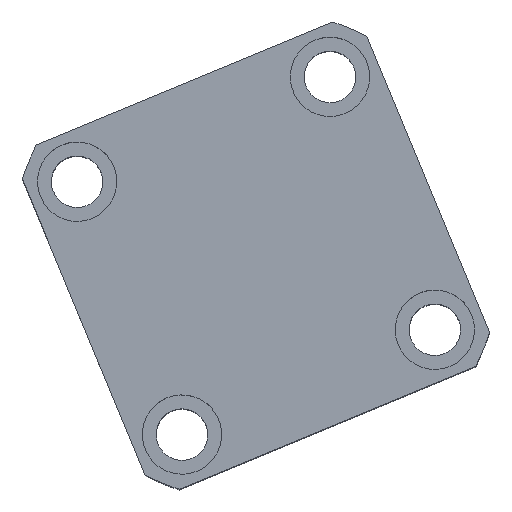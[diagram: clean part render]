
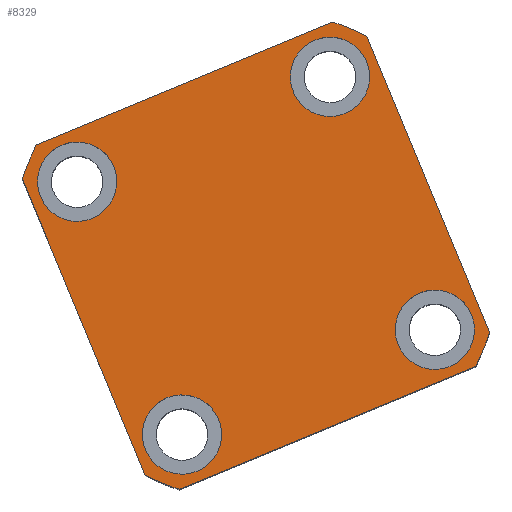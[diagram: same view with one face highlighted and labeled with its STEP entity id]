
A CAD part, top view. The second image highlights one B-rep face of the part: STEP entity #8329.
In plain terms, the highlighted planar face has unit normal (0, 0, 1) as drawn and (0, 0, -1) by its records, which use the part's own axes.
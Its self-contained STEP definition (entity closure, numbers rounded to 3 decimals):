
#53 = VERTEX_POINT ( 'NONE', #15798 ) ;
#65 = DIRECTION ( 'NONE',  ( 0., 0., -1. ) ) ;
#103 = EDGE_LOOP ( 'NONE', ( #13691, #5099 ) ) ;
#450 = CARTESIAN_POINT ( 'NONE',  ( -47., 47., 0. ) ) ;
#646 = ORIENTED_EDGE ( 'NONE', *, *, #15579, .F. ) ;
#859 = CARTESIAN_POINT ( 'NONE',  ( 44.5, -34.5, 0. ) ) ;
#1027 = EDGE_CURVE ( 'NONE', #15628, #4231, #2921, .T. ) ;
#1041 = CARTESIAN_POINT ( 'NONE',  ( 34.5, -34.5, 0. ) ) ;
#1096 = DIRECTION ( 'NONE',  ( -1., 0., 0. ) ) ;
#1181 = CARTESIAN_POINT ( 'NONE',  ( 0., 0., 0. ) ) ;
#1258 = VERTEX_POINT ( 'NONE', #8192 ) ;
#1277 = VERTEX_POINT ( 'NONE', #3029 ) ;
#1369 = CARTESIAN_POINT ( 'NONE',  ( -34.5, -34.5, 0. ) ) ;
#1877 = EDGE_CURVE ( 'NONE', #16053, #3107, #4431, .T. ) ;
#1995 = AXIS2_PLACEMENT_3D ( 'NONE', #10973, #2748, #12336 ) ;
#2361 = VECTOR ( 'NONE', #11053, 1000. ) ;
#2404 = DIRECTION ( 'NONE',  ( -1., 0., 0. ) ) ;
#2442 = CIRCLE ( 'NONE', #11385, 62. ) ;
#2467 = EDGE_CURVE ( 'NONE', #1258, #9757, #11826, .T. ) ;
#2510 = ORIENTED_EDGE ( 'NONE', *, *, #10456, .F. ) ;
#2512 = EDGE_CURVE ( 'NONE', #1277, #10713, #4078, .T. ) ;
#2542 = DIRECTION ( 'NONE',  ( 1., 0., 0. ) ) ;
#2726 = DIRECTION ( 'NONE',  ( -1., 0., 0. ) ) ;
#2748 = DIRECTION ( 'NONE',  ( 0., 0., -1. ) ) ;
#2755 = DIRECTION ( 'NONE',  ( 0., 0., -1. ) ) ;
#2921 = CIRCLE ( 'NONE', #13870, 10. ) ;
#3014 = DIRECTION ( 'NONE',  ( 0., 0., 1. ) ) ;
#3029 = CARTESIAN_POINT ( 'NONE',  ( 44.5, 34.5, 0. ) ) ;
#3052 = CARTESIAN_POINT ( 'NONE',  ( -47., -47., 0. ) ) ;
#3107 = VERTEX_POINT ( 'NONE', #3946 ) ;
#3116 = DIRECTION ( 'NONE',  ( 1., 0., 0. ) ) ;
#3236 = DIRECTION ( 'NONE',  ( -1., 0., 0. ) ) ;
#3313 = ORIENTED_EDGE ( 'NONE', *, *, #6032, .F. ) ;
#3359 = EDGE_LOOP ( 'NONE', ( #14373, #11609 ) ) ;
#3378 = CARTESIAN_POINT ( 'NONE',  ( 24.5, 34.5, 0. ) ) ;
#3461 = DIRECTION ( 'NONE',  ( 0., 0., 1. ) ) ;
#3479 = ORIENTED_EDGE ( 'NONE', *, *, #13554, .F. ) ;
#3570 = DIRECTION ( 'NONE',  ( 0., 0., 1. ) ) ;
#3737 = VERTEX_POINT ( 'NONE', #8264 ) ;
#3814 = EDGE_LOOP ( 'NONE', ( #15614, #15374 ) ) ;
#3916 = AXIS2_PLACEMENT_3D ( 'NONE', #11679, #3461, #13054 ) ;
#3946 = CARTESIAN_POINT ( 'NONE',  ( 40.435, 47., 0. ) ) ;
#4013 = ORIENTED_EDGE ( 'NONE', *, *, #5183, .F. ) ;
#4078 = CIRCLE ( 'NONE', #10203, 10. ) ;
#4098 = VECTOR ( 'NONE', #3236, 1000. ) ;
#4231 = VERTEX_POINT ( 'NONE', #5159 ) ;
#4247 = ORIENTED_EDGE ( 'NONE', *, *, #2512, .F. ) ;
#4431 = CIRCLE ( 'NONE', #16288, 62. ) ;
#5099 = ORIENTED_EDGE ( 'NONE', *, *, #11403, .F. ) ;
#5102 = VECTOR ( 'NONE', #17049, 1000. ) ;
#5159 = CARTESIAN_POINT ( 'NONE',  ( -44.5, -34.5, 0. ) ) ;
#5165 = CARTESIAN_POINT ( 'NONE',  ( 34.5, 34.5, 0. ) ) ;
#5183 = EDGE_CURVE ( 'NONE', #3737, #13462, #16798, .T. ) ;
#5318 = VERTEX_POINT ( 'NONE', #16306 ) ;
#5817 = CARTESIAN_POINT ( 'NONE',  ( -34.5, 34.5, 0. ) ) ;
#6032 = EDGE_CURVE ( 'NONE', #8145, #6618, #2442, .T. ) ;
#6541 = DIRECTION ( 'NONE',  ( -1., 0., 0. ) ) ;
#6549 = CARTESIAN_POINT ( 'NONE',  ( 0., 0., 0. ) ) ;
#6584 = FACE_OUTER_BOUND ( 'NONE', #7384, .T. ) ;
#6618 = VERTEX_POINT ( 'NONE', #13872 ) ;
#7016 = FACE_BOUND ( 'NONE', #3814, .T. ) ;
#7083 = CARTESIAN_POINT ( 'NONE',  ( 47., 47., 0. ) ) ;
#7202 = DIRECTION ( 'NONE',  ( -1., 0., 0. ) ) ;
#7339 = CIRCLE ( 'NONE', #14383, 10. ) ;
#7384 = EDGE_LOOP ( 'NONE', ( #12538, #2510, #4013, #16602, #3313, #10142, #11549, #646 ) ) ;
#7472 = CARTESIAN_POINT ( 'NONE',  ( -47., 47., 0. ) ) ;
#7612 = AXIS2_PLACEMENT_3D ( 'NONE', #10982, #2755, #12341 ) ;
#7637 = AXIS2_PLACEMENT_3D ( 'NONE', #5165, #14763, #6541 ) ;
#7730 = EDGE_CURVE ( 'NONE', #5318, #8145, #8763, .T. ) ;
#7785 = EDGE_CURVE ( 'NONE', #17309, #5318, #11977, .T. ) ;
#7878 = CARTESIAN_POINT ( 'NONE',  ( 47., -40.435, 0. ) ) ;
#7898 = EDGE_CURVE ( 'NONE', #4231, #15628, #11556, .T. ) ;
#7947 = DIRECTION ( 'NONE',  ( 1., 0., 0. ) ) ;
#7968 = CIRCLE ( 'NONE', #14024, 10. ) ;
#8075 = LINE ( 'NONE', #7083, #2361 ) ;
#8145 = VERTEX_POINT ( 'NONE', #8459 ) ;
#8192 = CARTESIAN_POINT ( 'NONE',  ( 24.5, -34.5, 0. ) ) ;
#8247 = CARTESIAN_POINT ( 'NONE',  ( -34.5, 34.5, 0. ) ) ;
#8264 = CARTESIAN_POINT ( 'NONE',  ( 40.435, -47., 0. ) ) ;
#8326 = EDGE_LOOP ( 'NONE', ( #3479, #4247 ) ) ;
#8329 = ADVANCED_FACE ( 'NONE', ( #13882, #7016, #10680, #10272, #6584 ), #11723, .F. ) ;
#8340 = AXIS2_PLACEMENT_3D ( 'NONE', #1041, #10612, #2404 ) ;
#8459 = CARTESIAN_POINT ( 'NONE',  ( -47., -40.435, 0. ) ) ;
#8763 = LINE ( 'NONE', #7472, #5102 ) ;
#9017 = EDGE_CURVE ( 'NONE', #6618, #3737, #14949, .T. ) ;
#9283 = DIRECTION ( 'NONE',  ( 0., 0., -1. ) ) ;
#9410 = CARTESIAN_POINT ( 'NONE',  ( -24.5, 34.5, 0. ) ) ;
#9618 = DIRECTION ( 'NONE',  ( -1., 0., 0. ) ) ;
#9757 = VERTEX_POINT ( 'NONE', #859 ) ;
#10142 = ORIENTED_EDGE ( 'NONE', *, *, #7730, .F. ) ;
#10203 = AXIS2_PLACEMENT_3D ( 'NONE', #17480, #9283, #1096 ) ;
#10272 = FACE_BOUND ( 'NONE', #8326, .T. ) ;
#10456 = EDGE_CURVE ( 'NONE', #13462, #16053, #8075, .T. ) ;
#10612 = DIRECTION ( 'NONE',  ( 0., 0., -1. ) ) ;
#10680 = FACE_BOUND ( 'NONE', #3359, .T. ) ;
#10713 = VERTEX_POINT ( 'NONE', #3378 ) ;
#10753 = DIRECTION ( 'NONE',  ( 0., 0., 1. ) ) ;
#10950 = DIRECTION ( 'NONE',  ( 0., 0., -1. ) ) ;
#10960 = LINE ( 'NONE', #450, #4098 ) ;
#10973 = CARTESIAN_POINT ( 'NONE',  ( 34.5, -34.5, 0. ) ) ;
#10982 = CARTESIAN_POINT ( 'NONE',  ( -34.5, -34.5, 0. ) ) ;
#11053 = DIRECTION ( 'NONE',  ( 0., 1., 0. ) ) ;
#11242 = CARTESIAN_POINT ( 'NONE',  ( 0., 0., 0. ) ) ;
#11294 = VERTEX_POINT ( 'NONE', #9410 ) ;
#11329 = VECTOR ( 'NONE', #3116, 1000. ) ;
#11385 = AXIS2_PLACEMENT_3D ( 'NONE', #11242, #3014, #12604 ) ;
#11403 = EDGE_CURVE ( 'NONE', #9757, #1258, #12709, .T. ) ;
#11549 = ORIENTED_EDGE ( 'NONE', *, *, #7785, .F. ) ;
#11556 = CIRCLE ( 'NONE', #7612, 10. ) ;
#11609 = ORIENTED_EDGE ( 'NONE', *, *, #14704, .F. ) ;
#11679 = CARTESIAN_POINT ( 'NONE',  ( 0., 0., 0. ) ) ;
#11723 = PLANE ( 'NONE',  #16767 ) ;
#11787 = CARTESIAN_POINT ( 'NONE',  ( 0., 0., 0. ) ) ;
#11826 = CIRCLE ( 'NONE', #8340, 10. ) ;
#11859 = CIRCLE ( 'NONE', #7637, 10. ) ;
#11977 = CIRCLE ( 'NONE', #3916, 62. ) ;
#12336 = DIRECTION ( 'NONE',  ( -1., 0., 0. ) ) ;
#12341 = DIRECTION ( 'NONE',  ( -1., 0., 0. ) ) ;
#12538 = ORIENTED_EDGE ( 'NONE', *, *, #1877, .F. ) ;
#12604 = DIRECTION ( 'NONE',  ( 1., 0., 0. ) ) ;
#12629 = AXIS2_PLACEMENT_3D ( 'NONE', #1181, #10753, #2542 ) ;
#12709 = CIRCLE ( 'NONE', #1995, 10. ) ;
#13054 = DIRECTION ( 'NONE',  ( 1., 0., 0. ) ) ;
#13161 = DIRECTION ( 'NONE',  ( 1., 0., 0. ) ) ;
#13163 = CARTESIAN_POINT ( 'NONE',  ( -40.435, 47., 0. ) ) ;
#13462 = VERTEX_POINT ( 'NONE', #7878 ) ;
#13554 = EDGE_CURVE ( 'NONE', #10713, #1277, #11859, .T. ) ;
#13691 = ORIENTED_EDGE ( 'NONE', *, *, #2467, .F. ) ;
#13870 = AXIS2_PLACEMENT_3D ( 'NONE', #1369, #10950, #2726 ) ;
#13872 = CARTESIAN_POINT ( 'NONE',  ( -40.435, -47., 0. ) ) ;
#13882 = FACE_BOUND ( 'NONE', #103, .T. ) ;
#13978 = EDGE_CURVE ( 'NONE', #53, #11294, #7339, .T. ) ;
#14024 = AXIS2_PLACEMENT_3D ( 'NONE', #5817, #15407, #7202 ) ;
#14373 = ORIENTED_EDGE ( 'NONE', *, *, #13978, .F. ) ;
#14383 = AXIS2_PLACEMENT_3D ( 'NONE', #8247, #65, #9618 ) ;
#14704 = EDGE_CURVE ( 'NONE', #11294, #53, #7968, .T. ) ;
#14724 = CARTESIAN_POINT ( 'NONE',  ( 47., 40.435, 0. ) ) ;
#14763 = DIRECTION ( 'NONE',  ( 0., 0., -1. ) ) ;
#14949 = LINE ( 'NONE', #3052, #11329 ) ;
#15374 = ORIENTED_EDGE ( 'NONE', *, *, #1027, .F. ) ;
#15407 = DIRECTION ( 'NONE',  ( 0., 0., -1. ) ) ;
#15579 = EDGE_CURVE ( 'NONE', #3107, #17309, #10960, .T. ) ;
#15614 = ORIENTED_EDGE ( 'NONE', *, *, #7898, .F. ) ;
#15628 = VERTEX_POINT ( 'NONE', #16955 ) ;
#15798 = CARTESIAN_POINT ( 'NONE',  ( -44.5, 34.5, 0. ) ) ;
#16053 = VERTEX_POINT ( 'NONE', #14724 ) ;
#16144 = DIRECTION ( 'NONE',  ( 0., 0., 1. ) ) ;
#16288 = AXIS2_PLACEMENT_3D ( 'NONE', #6549, #16144, #7947 ) ;
#16306 = CARTESIAN_POINT ( 'NONE',  ( -47., 40.435, 0. ) ) ;
#16602 = ORIENTED_EDGE ( 'NONE', *, *, #9017, .F. ) ;
#16767 = AXIS2_PLACEMENT_3D ( 'NONE', #11787, #3570, #13161 ) ;
#16798 = CIRCLE ( 'NONE', #12629, 62. ) ;
#16955 = CARTESIAN_POINT ( 'NONE',  ( -24.5, -34.5, 0. ) ) ;
#17049 = DIRECTION ( 'NONE',  ( 0., -1., 0. ) ) ;
#17309 = VERTEX_POINT ( 'NONE', #13163 ) ;
#17480 = CARTESIAN_POINT ( 'NONE',  ( 34.5, 34.5, 0. ) ) ;
